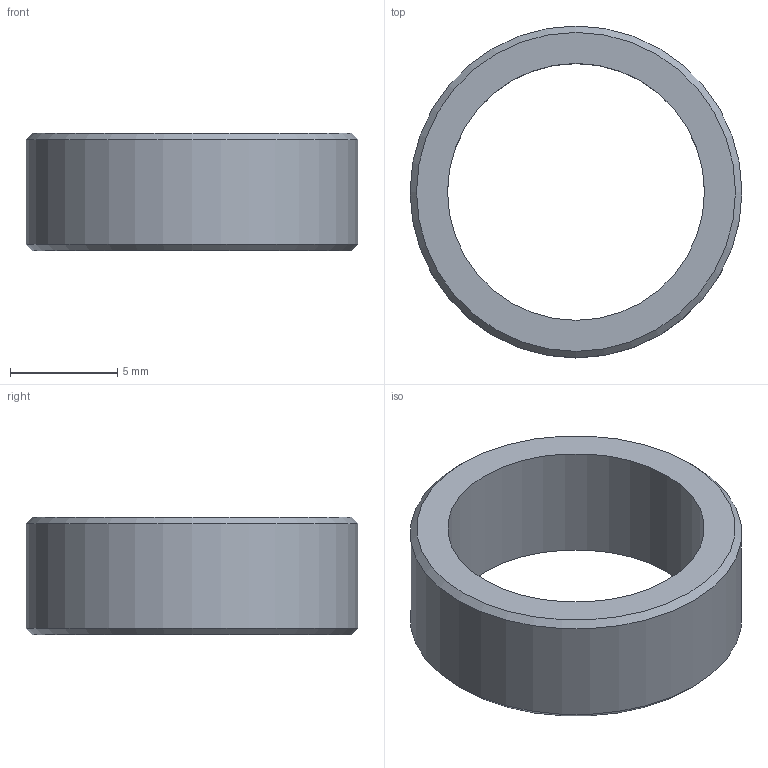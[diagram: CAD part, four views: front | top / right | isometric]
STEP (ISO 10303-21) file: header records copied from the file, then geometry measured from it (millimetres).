
FILE_DESCRIPTION(('Open CASCADE Model'),'2;1');
FILE_NAME('Open CASCADE Shape Model','2026-09-23T13:32:39',('Author'),( 'Open CASCADE'),'Open CASCADE STEP processor 7.9','Open CASCADE 7.9' ,'Unknown');
FILE_SCHEMA(('AUTOMOTIVE_DESIGN { 1 0 10303 214 1 1 1 1 }'));
Length unit declared in the file: millimetre
Products named in the file (1): Open CASCADE STEP translator 7.9 1
Bounding box: 15.5 x 15.5 x 5.5 mm (x, y, z)
Volume: 411.4 mm3; surface area: 609 mm2
Topology: 1 solids, 1 shells, 6 faces, 10 edges, 6 vertices
Faces by surface type: cylinder 2, cone 2, plane 2
Full cylindrical faces by diameter (mm): 12 x1, 15.5 x1
Entity records: 284 total; most frequent: CARTESIAN_POINT 47, DIRECTION 46, ORIENTED_EDGE 20, PCURVE 20, DEFINITIONAL_REPRESENTATION 20, LINE 16, VECTOR 16, AXIS2_PLACEMENT_3D 13
